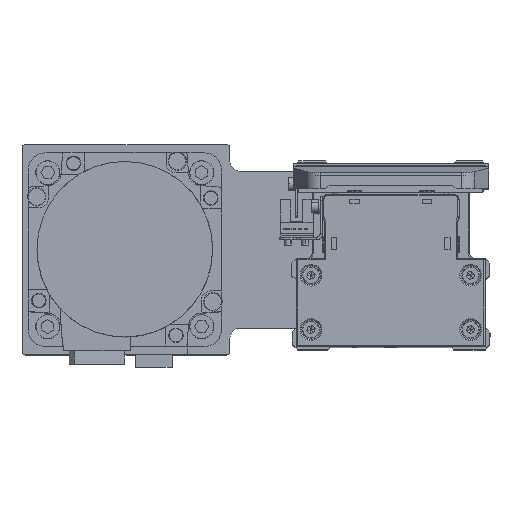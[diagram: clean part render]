
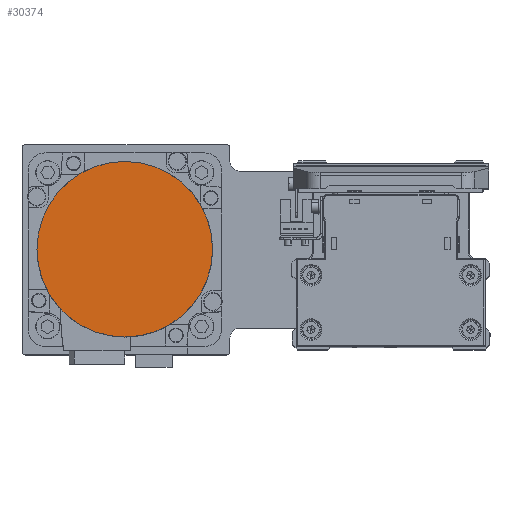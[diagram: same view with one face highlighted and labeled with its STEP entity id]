
A CAD part, top view. The second image highlights one B-rep face of the part: STEP entity #30374.
In plain terms, the highlighted planar face has unit normal (0, 0, 1) as drawn and (0, 0, -1) by its records, which use the part's own axes.
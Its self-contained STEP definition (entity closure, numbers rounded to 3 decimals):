
#2560 = DIRECTION ( 'NONE',  ( 0., 0., 1. ) ) ;
#3698 = AXIS2_PLACEMENT_3D ( 'NONE', #38464, #11498, #23533 ) ;
#4838 = DIRECTION ( 'NONE',  ( 0., -1., 0. ) ) ;
#6752 = AXIS2_PLACEMENT_3D ( 'NONE', #19812, #31813, #4838 ) ;
#8955 = ORIENTED_EDGE ( 'NONE', *, *, #26605, .F. ) ;
#11498 = DIRECTION ( 'NONE',  ( 0., 0., 1. ) ) ;
#14488 = FACE_OUTER_BOUND ( 'NONE', #24250, .T. ) ;
#14596 = DIRECTION ( 'NONE',  ( 0., 1., 0. ) ) ;
#16284 = AXIS2_PLACEMENT_3D ( 'NONE', #29550, #2560, #14596 ) ;
#18289 = ORIENTED_EDGE ( 'NONE', *, *, #25590, .F. ) ;
#19812 = CARTESIAN_POINT ( 'NONE',  ( 0., 0., -122.2 ) ) ;
#23533 = DIRECTION ( 'NONE',  ( 1., 0., 0. ) ) ;
#23747 = CIRCLE ( 'NONE', #6752, 36.3 ) ;
#24250 = EDGE_LOOP ( 'NONE', ( #8955, #18289 ) ) ;
#24836 = VERTEX_POINT ( 'NONE', #35485 ) ;
#25590 = EDGE_CURVE ( 'NONE', #28218, #24836, #23747, .T. ) ;
#26481 = PLANE ( 'NONE',  #3698 ) ;
#26605 = EDGE_CURVE ( 'NONE', #24836, #28218, #33220, .T. ) ;
#28218 = VERTEX_POINT ( 'NONE', #38748 ) ;
#29550 = CARTESIAN_POINT ( 'NONE',  ( 0., 0., -122.2 ) ) ;
#30374 = ADVANCED_FACE ( 'NONE', ( #14488 ), #26481, .F. ) ;
#31813 = DIRECTION ( 'NONE',  ( 0., 0., 1. ) ) ;
#33220 = CIRCLE ( 'NONE', #16284, 36.3 ) ;
#35485 = CARTESIAN_POINT ( 'NONE',  ( 0., 36.3, -122.2 ) ) ;
#38464 = CARTESIAN_POINT ( 'NONE',  ( 0., 0., -122.2 ) ) ;
#38748 = CARTESIAN_POINT ( 'NONE',  ( 0., -36.3, -122.2 ) ) ;
